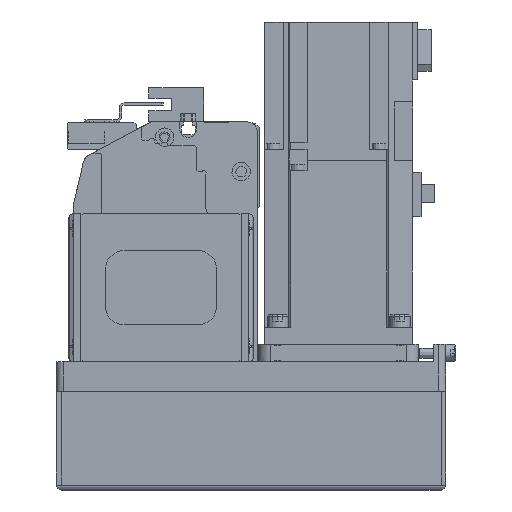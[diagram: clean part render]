
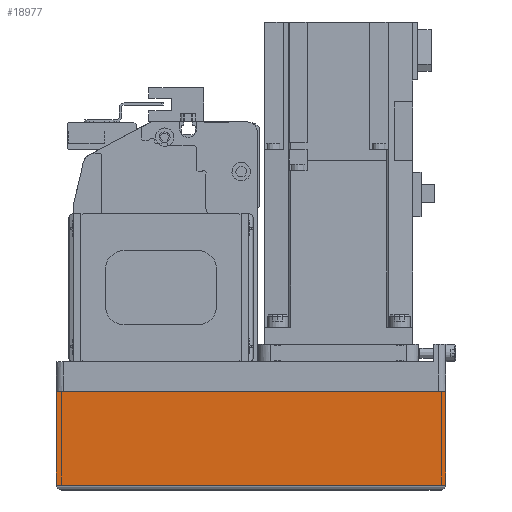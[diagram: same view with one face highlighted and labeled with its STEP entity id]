
A CAD part, left-side view. The second image highlights one B-rep face of the part: STEP entity #18977.
In plain terms, the highlighted planar face has unit normal (-1, 0, 0) as drawn and (0, 1, 0) by its records, which use the part's own axes.
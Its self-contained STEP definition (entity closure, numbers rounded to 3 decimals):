
#2940=ORIENTED_EDGE('',*,*,#7595,.F.);
#2941=ORIENTED_EDGE('',*,*,#7664,.F.);
#2942=ORIENTED_EDGE('',*,*,#7612,.T.);
#2943=ORIENTED_EDGE('',*,*,#7587,.T.);
#7587=EDGE_CURVE('',#10101,#10100,#12038,.T.);
#7595=EDGE_CURVE('',#10108,#10100,#12046,.T.);
#7612=EDGE_CURVE('',#10118,#10101,#12059,.T.);
#7664=EDGE_CURVE('',#10118,#10108,#12088,.T.);
#10100=VERTEX_POINT('',#29098);
#10101=VERTEX_POINT('',#29100);
#10108=VERTEX_POINT('',#29117);
#10118=VERTEX_POINT('',#29148);
#12038=LINE('',#29099,#13701);
#12046=LINE('',#29116,#13709);
#12059=LINE('',#29147,#13722);
#12088=LINE('',#29242,#13751);
#13701=VECTOR('',#23292,1000.);
#13709=VECTOR('',#23304,1000.);
#13722=VECTOR('',#23333,1000.);
#13751=VECTOR('',#23450,1000.);
#15241=EDGE_LOOP('',(#2940,#2941,#2942,#2943));
#16806=FACE_BOUND('',#15241,.T.);
#18200=PLANE('',#20362);
#18977=ADVANCED_FACE('',(#16806),#18200,.T.);
#20362=AXIS2_PLACEMENT_3D('',#29241,#23448,#23449);
#23292=DIRECTION('',(1.,0.,0.));
#23304=DIRECTION('',(0.,0.,1.));
#23333=DIRECTION('',(0.,0.,1.));
#23448=DIRECTION('',(0.,1.,0.));
#23449=DIRECTION('',(0.,0.,1.));
#23450=DIRECTION('',(1.,0.,0.));
#29098=CARTESIAN_POINT('',(0.,39.,-12.1));
#29099=CARTESIAN_POINT('',(-158.,39.,-12.1));
#29100=CARTESIAN_POINT('',(-158.,39.,-12.1));
#29116=CARTESIAN_POINT('',(0.,39.,-50.));
#29117=CARTESIAN_POINT('',(0.,39.,-50.));
#29147=CARTESIAN_POINT('',(-158.,39.,-50.));
#29148=CARTESIAN_POINT('',(-158.,39.,-50.));
#29241=CARTESIAN_POINT('',(-158.,39.,-50.));
#29242=CARTESIAN_POINT('',(-158.,39.,-50.));
